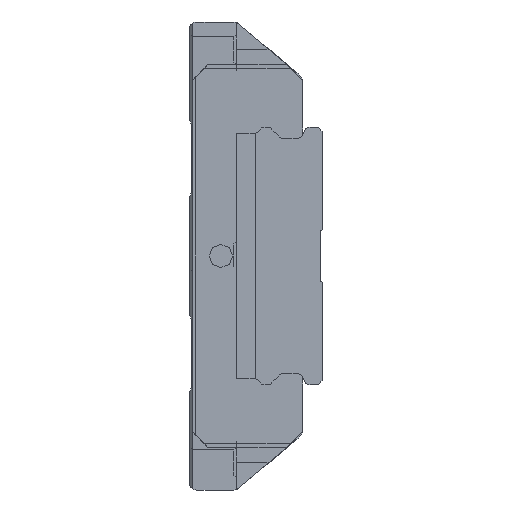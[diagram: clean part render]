
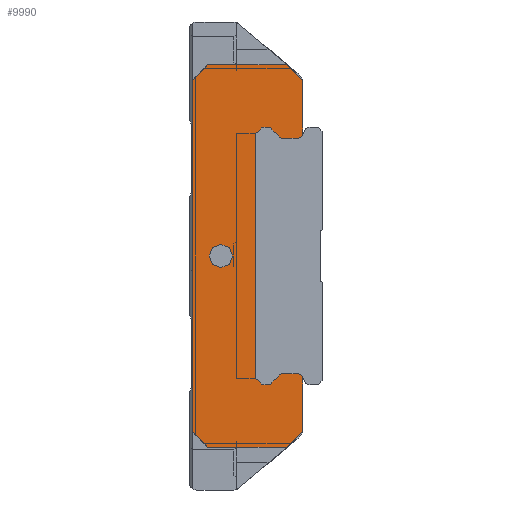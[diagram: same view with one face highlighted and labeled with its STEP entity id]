
A CAD part, left-side view. The second image highlights one B-rep face of the part: STEP entity #9990.
In plain terms, the highlighted planar face has unit normal (-1, 0, 0).
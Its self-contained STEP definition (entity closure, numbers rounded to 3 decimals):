
#737=CIRCLE('',#11409,1.5);
#738=CIRCLE('',#11410,0.5);
#739=CIRCLE('',#11411,0.5);
#740=CIRCLE('',#11412,1.03);
#741=CIRCLE('',#11413,0.1);
#742=CIRCLE('',#11414,0.1);
#743=CIRCLE('',#11415,1.03);
#744=CIRCLE('',#11416,1.03);
#745=CIRCLE('',#11417,0.1);
#746=CIRCLE('',#11418,0.1);
#747=CIRCLE('',#11419,1.03);
#748=CIRCLE('',#11420,0.5);
#749=CIRCLE('',#11421,0.5);
#3179=ORIENTED_EDGE('',*,*,#4492,.T.);
#3180=ORIENTED_EDGE('',*,*,#4493,.T.);
#3181=ORIENTED_EDGE('',*,*,#4415,.F.);
#3182=ORIENTED_EDGE('',*,*,#4383,.F.);
#3183=ORIENTED_EDGE('',*,*,#4379,.F.);
#3184=ORIENTED_EDGE('',*,*,#4373,.F.);
#3185=ORIENTED_EDGE('',*,*,#4407,.F.);
#3186=ORIENTED_EDGE('',*,*,#4360,.F.);
#3187=ORIENTED_EDGE('',*,*,#4394,.F.);
#3188=ORIENTED_EDGE('',*,*,#4391,.F.);
#3189=ORIENTED_EDGE('',*,*,#4417,.F.);
#3190=ORIENTED_EDGE('',*,*,#4494,.T.);
#3191=ORIENTED_EDGE('',*,*,#4495,.F.);
#3192=ORIENTED_EDGE('',*,*,#4496,.T.);
#3193=ORIENTED_EDGE('',*,*,#4497,.F.);
#3194=ORIENTED_EDGE('',*,*,#4498,.T.);
#3195=ORIENTED_EDGE('',*,*,#4499,.F.);
#3196=ORIENTED_EDGE('',*,*,#4500,.T.);
#3197=ORIENTED_EDGE('',*,*,#4501,.T.);
#3198=ORIENTED_EDGE('',*,*,#4502,.T.);
#3199=ORIENTED_EDGE('',*,*,#4503,.F.);
#3200=ORIENTED_EDGE('',*,*,#4399,.T.);
#3201=ORIENTED_EDGE('',*,*,#4504,.F.);
#3202=ORIENTED_EDGE('',*,*,#4505,.T.);
#3203=ORIENTED_EDGE('',*,*,#4506,.T.);
#3204=ORIENTED_EDGE('',*,*,#4507,.T.);
#3205=ORIENTED_EDGE('',*,*,#4508,.F.);
#3206=ORIENTED_EDGE('',*,*,#4509,.T.);
#3207=ORIENTED_EDGE('',*,*,#4510,.F.);
#3208=ORIENTED_EDGE('',*,*,#4511,.T.);
#3209=ORIENTED_EDGE('',*,*,#4512,.F.);
#4360=EDGE_CURVE('',#5400,#5401,#5743,.T.);
#4373=EDGE_CURVE('',#5411,#5412,#5756,.T.);
#4379=EDGE_CURVE('',#5412,#5416,#5762,.T.);
#4383=EDGE_CURVE('',#5416,#5418,#5766,.T.);
#4391=EDGE_CURVE('',#5424,#5425,#5774,.T.);
#4394=EDGE_CURVE('',#5425,#5400,#5777,.T.);
#4399=EDGE_CURVE('',#5427,#5429,#5782,.T.);
#4407=EDGE_CURVE('',#5401,#5411,#5788,.T.);
#4415=EDGE_CURVE('',#5418,#5433,#5796,.T.);
#4417=EDGE_CURVE('',#5436,#5424,#5798,.T.);
#4492=EDGE_CURVE('',#5484,#5484,#737,.T.);
#4493=EDGE_CURVE('',#5485,#5433,#5841,.T.);
#4494=EDGE_CURVE('',#5436,#5486,#5842,.T.);
#4495=EDGE_CURVE('',#5487,#5486,#738,.T.);
#4496=EDGE_CURVE('',#5487,#5488,#5843,.T.);
#4497=EDGE_CURVE('',#5489,#5488,#739,.T.);
#4498=EDGE_CURVE('',#5489,#5490,#5844,.T.);
#4499=EDGE_CURVE('',#5491,#5490,#740,.T.);
#4500=EDGE_CURVE('',#5491,#5492,#741,.T.);
#4501=EDGE_CURVE('',#5492,#5493,#5845,.T.);
#4502=EDGE_CURVE('',#5493,#5494,#742,.T.);
#4503=EDGE_CURVE('',#5427,#5494,#743,.T.);
#4504=EDGE_CURVE('',#5495,#5429,#744,.T.);
#4505=EDGE_CURVE('',#5495,#5496,#745,.T.);
#4506=EDGE_CURVE('',#5496,#5497,#5846,.T.);
#4507=EDGE_CURVE('',#5497,#5498,#746,.T.);
#4508=EDGE_CURVE('',#5499,#5498,#747,.T.);
#4509=EDGE_CURVE('',#5499,#5500,#5847,.T.);
#4510=EDGE_CURVE('',#5501,#5500,#748,.T.);
#4511=EDGE_CURVE('',#5501,#5502,#5848,.T.);
#4512=EDGE_CURVE('',#5485,#5502,#749,.T.);
#5400=VERTEX_POINT('',#16983);
#5401=VERTEX_POINT('',#16985);
#5411=VERTEX_POINT('',#17008);
#5412=VERTEX_POINT('',#17010);
#5416=VERTEX_POINT('',#17022);
#5418=VERTEX_POINT('',#17029);
#5424=VERTEX_POINT('',#17043);
#5425=VERTEX_POINT('',#17045);
#5427=VERTEX_POINT('',#17055);
#5429=VERTEX_POINT('',#17059);
#5433=VERTEX_POINT('',#17082);
#5436=VERTEX_POINT('',#17092);
#5484=VERTEX_POINT('',#17255);
#5485=VERTEX_POINT('',#17257);
#5486=VERTEX_POINT('',#17259);
#5487=VERTEX_POINT('',#17261);
#5488=VERTEX_POINT('',#17263);
#5489=VERTEX_POINT('',#17265);
#5490=VERTEX_POINT('',#17267);
#5491=VERTEX_POINT('',#17269);
#5492=VERTEX_POINT('',#17271);
#5493=VERTEX_POINT('',#17273);
#5494=VERTEX_POINT('',#17275);
#5495=VERTEX_POINT('',#17278);
#5496=VERTEX_POINT('',#17280);
#5497=VERTEX_POINT('',#17282);
#5498=VERTEX_POINT('',#17284);
#5499=VERTEX_POINT('',#17286);
#5500=VERTEX_POINT('',#17288);
#5501=VERTEX_POINT('',#17290);
#5502=VERTEX_POINT('',#17292);
#5743=LINE('',#16984,#6102);
#5756=LINE('',#17009,#6115);
#5762=LINE('',#17021,#6121);
#5766=LINE('',#17028,#6125);
#5774=LINE('',#17044,#6133);
#5777=LINE('',#17049,#6136);
#5782=LINE('',#17060,#6141);
#5788=LINE('',#17075,#6147);
#5796=LINE('',#17089,#6155);
#5798=LINE('',#17094,#6157);
#5841=LINE('',#17256,#6200);
#5842=LINE('',#17258,#6201);
#5843=LINE('',#17262,#6202);
#5844=LINE('',#17266,#6203);
#5845=LINE('',#17272,#6204);
#5846=LINE('',#17281,#6205);
#5847=LINE('',#17287,#6206);
#5848=LINE('',#17291,#6207);
#6102=VECTOR('',#14203,1000.);
#6115=VECTOR('',#14218,1000.);
#6121=VECTOR('',#14228,1000.);
#6125=VECTOR('',#14234,1000.);
#6133=VECTOR('',#14244,1000.);
#6136=VECTOR('',#14249,1000.);
#6141=VECTOR('',#14258,1000.);
#6147=VECTOR('',#14278,1000.);
#6155=VECTOR('',#14290,1000.);
#6157=VECTOR('',#14294,1000.);
#6200=VECTOR('',#14481,1000.);
#6201=VECTOR('',#14482,1000.);
#6202=VECTOR('',#14485,1000.);
#6203=VECTOR('',#14488,1000.);
#6204=VECTOR('',#14493,1000.);
#6205=VECTOR('',#14502,1000.);
#6206=VECTOR('',#14507,1000.);
#6207=VECTOR('',#14510,1000.);
#7625=EDGE_LOOP('',(#3179));
#7626=EDGE_LOOP('',(#3180,#3181,#3182,#3183,#3184,#3185,#3186,#3187,#3188,
#3189,#3190,#3191,#3192,#3193,#3194,#3195,#3196,#3197,#3198,#3199,#3200,
#3201,#3202,#3203,#3204,#3205,#3206,#3207,#3208,#3209));
#9058=FACE_BOUND('',#7625,.T.);
#9059=FACE_BOUND('',#7626,.T.);
#9359=PLANE('',#11408);
#9990=ADVANCED_FACE('',(#9058,#9059),#9359,.F.);
#11408=AXIS2_PLACEMENT_3D('',#17253,#14477,#14478);
#11409=AXIS2_PLACEMENT_3D('',#17254,#14479,#14480);
#11410=AXIS2_PLACEMENT_3D('',#17260,#14483,#14484);
#11411=AXIS2_PLACEMENT_3D('',#17264,#14486,#14487);
#11412=AXIS2_PLACEMENT_3D('',#17268,#14489,#14490);
#11413=AXIS2_PLACEMENT_3D('',#17270,#14491,#14492);
#11414=AXIS2_PLACEMENT_3D('',#17274,#14494,#14495);
#11415=AXIS2_PLACEMENT_3D('',#17276,#14496,#14497);
#11416=AXIS2_PLACEMENT_3D('',#17277,#14498,#14499);
#11417=AXIS2_PLACEMENT_3D('',#17279,#14500,#14501);
#11418=AXIS2_PLACEMENT_3D('',#17283,#14503,#14504);
#11419=AXIS2_PLACEMENT_3D('',#17285,#14505,#14506);
#11420=AXIS2_PLACEMENT_3D('',#17289,#14508,#14509);
#11421=AXIS2_PLACEMENT_3D('',#17293,#14511,#14512);
#14203=DIRECTION('',(0.,0.707,0.707));
#14218=DIRECTION('',(0.,-0.707,0.707));
#14228=DIRECTION('',(0.,-1.,0.));
#14234=DIRECTION('',(0.,-0.707,-0.707));
#14244=DIRECTION('',(0.,0.707,-0.707));
#14249=DIRECTION('',(0.,1.,0.));
#14258=DIRECTION('',(0.,0.,1.));
#14278=DIRECTION('',(0.,0.,1.));
#14290=DIRECTION('',(0.,0.,-1.));
#14294=DIRECTION('',(0.,0.,-1.));
#14477=DIRECTION('',(1.,0.,0.));
#14478=DIRECTION('',(0.,0.,-1.));
#14479=DIRECTION('',(1.,0.,0.));
#14480=DIRECTION('',(0.,0.,-1.));
#14481=DIRECTION('',(0.,-0.5,0.866));
#14482=DIRECTION('',(0.,0.5,0.866));
#14483=DIRECTION('',(1.,0.,0.));
#14484=DIRECTION('',(0.,0.,-1.));
#14485=DIRECTION('',(0.,1.,0.));
#14486=DIRECTION('',(1.,0.,0.));
#14487=DIRECTION('',(0.,0.,-1.));
#14488=DIRECTION('',(0.,0.699,-0.715));
#14489=DIRECTION('',(1.,0.,0.));
#14490=DIRECTION('',(0.,0.,-1.));
#14491=DIRECTION('',(1.,0.,0.));
#14492=DIRECTION('',(0.,0.,-1.));
#14493=DIRECTION('',(0.,1.,0.));
#14494=DIRECTION('',(1.,0.,0.));
#14495=DIRECTION('',(0.,0.,-1.));
#14496=DIRECTION('',(1.,0.,0.));
#14497=DIRECTION('',(0.,0.,-1.));
#14498=DIRECTION('',(1.,0.,0.));
#14499=DIRECTION('',(0.,0.,-1.));
#14500=DIRECTION('',(1.,0.,0.));
#14501=DIRECTION('',(0.,0.,-1.));
#14502=DIRECTION('',(0.,-1.,0.));
#14503=DIRECTION('',(1.,0.,0.));
#14504=DIRECTION('',(0.,0.,-1.));
#14505=DIRECTION('',(1.,0.,0.));
#14506=DIRECTION('',(0.,0.,-1.));
#14507=DIRECTION('',(0.,-0.699,-0.715));
#14508=DIRECTION('',(1.,0.,0.));
#14509=DIRECTION('',(0.,0.,-1.));
#14510=DIRECTION('',(0.,-1.,0.));
#14511=DIRECTION('',(1.,0.,0.));
#14512=DIRECTION('',(0.,0.,-1.));
#16983=CARTESIAN_POINT('',(-25.5,12.2,-24.5));
#16984=CARTESIAN_POINT('',(-25.5,12.2,-24.5));
#16985=CARTESIAN_POINT('',(-25.5,14.2,-22.5));
#17008=CARTESIAN_POINT('',(-25.5,14.2,22.5));
#17009=CARTESIAN_POINT('',(-25.5,14.2,22.5));
#17010=CARTESIAN_POINT('',(-25.5,12.2,24.5));
#17021=CARTESIAN_POINT('',(-25.5,12.2,24.5));
#17022=CARTESIAN_POINT('',(-25.5,2.,24.5));
#17028=CARTESIAN_POINT('',(-25.5,2.,24.5));
#17029=CARTESIAN_POINT('',(-25.5,0.,22.5));
#17043=CARTESIAN_POINT('',(-25.5,0.,-22.5));
#17044=CARTESIAN_POINT('',(-25.5,0.,-22.5));
#17045=CARTESIAN_POINT('',(-25.5,2.,-24.5));
#17049=CARTESIAN_POINT('',(-25.5,2.,-24.5));
#17055=CARTESIAN_POINT('',(-25.5,6.1,-15.762));
#17059=CARTESIAN_POINT('',(-25.5,6.1,15.762));
#17060=CARTESIAN_POINT('',(-25.5,6.1,-15.762));
#17075=CARTESIAN_POINT('',(-25.5,14.2,-22.5));
#17082=CARTESIAN_POINT('',(-25.5,0.,15.634));
#17089=CARTESIAN_POINT('',(-25.5,0.,22.5));
#17092=CARTESIAN_POINT('',(-25.5,0.,-15.634));
#17094=CARTESIAN_POINT('',(-25.5,0.,22.5));
#17253=CARTESIAN_POINT('',(-25.5,0.,0.));
#17254=CARTESIAN_POINT('',(-25.5,10.5,0.));
#17255=CARTESIAN_POINT('',(-25.5,10.5,-1.5));
#17256=CARTESIAN_POINT('',(-25.5,0.164,15.35));
#17257=CARTESIAN_POINT('',(-25.5,0.164,15.35));
#17258=CARTESIAN_POINT('',(-25.5,-0.356,-16.25));
#17259=CARTESIAN_POINT('',(-25.5,0.164,-15.35));
#17260=CARTESIAN_POINT('',(-25.5,0.597,-15.6));
#17261=CARTESIAN_POINT('',(-25.5,0.597,-15.1));
#17262=CARTESIAN_POINT('',(-25.5,0.597,-15.1));
#17263=CARTESIAN_POINT('',(-25.5,2.574,-15.1));
#17264=CARTESIAN_POINT('',(-25.5,2.574,-15.6));
#17265=CARTESIAN_POINT('',(-25.5,2.932,-15.251));
#17266=CARTESIAN_POINT('',(-25.5,2.932,-15.251));
#17267=CARTESIAN_POINT('',(-25.5,3.47,-15.802));
#17268=CARTESIAN_POINT('',(-25.5,3.121,-16.771));
#17269=CARTESIAN_POINT('',(-25.5,4.094,-16.433));
#17270=CARTESIAN_POINT('',(-25.5,4.188,-16.4));
#17271=CARTESIAN_POINT('',(-25.5,4.188,-16.5));
#17272=CARTESIAN_POINT('',(-25.5,4.188,-16.5));
#17273=CARTESIAN_POINT('',(-25.5,5.241,-16.5));
#17274=CARTESIAN_POINT('',(-25.5,5.241,-16.4));
#17275=CARTESIAN_POINT('',(-25.5,5.335,-16.433));
#17276=CARTESIAN_POINT('',(-25.5,6.308,-16.771));
#17277=CARTESIAN_POINT('',(-25.5,6.308,16.771));
#17278=CARTESIAN_POINT('',(-25.5,5.335,16.433));
#17279=CARTESIAN_POINT('',(-25.5,5.241,16.4));
#17280=CARTESIAN_POINT('',(-25.5,5.241,16.5));
#17281=CARTESIAN_POINT('',(-25.5,5.241,16.5));
#17282=CARTESIAN_POINT('',(-25.5,4.188,16.5));
#17283=CARTESIAN_POINT('',(-25.5,4.188,16.4));
#17284=CARTESIAN_POINT('',(-25.5,4.094,16.433));
#17285=CARTESIAN_POINT('',(-25.5,3.121,16.771));
#17286=CARTESIAN_POINT('',(-25.5,3.47,15.802));
#17287=CARTESIAN_POINT('',(-25.5,3.47,15.802));
#17288=CARTESIAN_POINT('',(-25.5,2.932,15.251));
#17289=CARTESIAN_POINT('',(-25.5,2.574,15.6));
#17290=CARTESIAN_POINT('',(-25.5,2.574,15.1));
#17291=CARTESIAN_POINT('',(-25.5,2.574,15.1));
#17292=CARTESIAN_POINT('',(-25.5,0.597,15.1));
#17293=CARTESIAN_POINT('',(-25.5,0.597,15.6));
